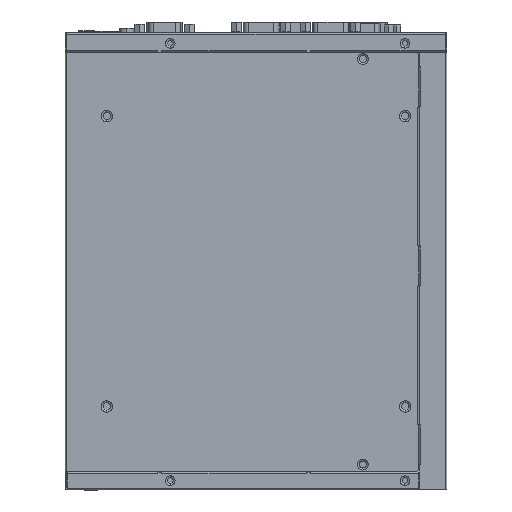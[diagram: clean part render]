
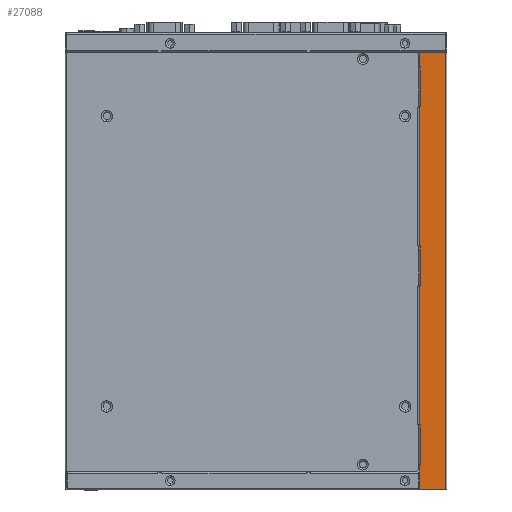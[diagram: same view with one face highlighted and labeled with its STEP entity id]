
A CAD part, front view. The second image highlights one B-rep face of the part: STEP entity #27088.
In plain terms, the highlighted planar face has unit normal (0, -1, 0).
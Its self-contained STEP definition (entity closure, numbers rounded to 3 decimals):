
#732 = CARTESIAN_POINT ( 'NONE',  ( 173., -32.35, -35.16 ) ) ;
#1957 = CARTESIAN_POINT ( 'NONE',  ( 173., -32.35, -227.66 ) ) ;
#2602 = EDGE_CURVE ( 'NONE', #48634, #61095, #22299, .T. ) ;
#3685 = CARTESIAN_POINT ( 'NONE',  ( 173., -32.35, -227.66 ) ) ;
#3712 = DIRECTION ( 'NONE',  ( 0., -1., 0. ) ) ;
#4452 = EDGE_CURVE ( 'NONE', #82041, #87753, #63120, .T. ) ;
#4977 = VERTEX_POINT ( 'NONE', #104557 ) ;
#7463 = EDGE_CURVE ( 'NONE', #135425, #12839, #136927, .T. ) ;
#10437 = VECTOR ( 'NONE', #38597, 1000. ) ;
#10545 = DIRECTION ( 'NONE',  ( -1., 0., 0. ) ) ;
#10933 = DIRECTION ( 'NONE',  ( 1., 0., 0. ) ) ;
#11315 = CARTESIAN_POINT ( 'NONE',  ( 173., -32.35, -195.16 ) ) ;
#11584 = DIRECTION ( 'NONE',  ( 0., 0., 1. ) ) ;
#12839 = VERTEX_POINT ( 'NONE', #97250 ) ;
#12980 = CARTESIAN_POINT ( 'NONE',  ( 173., -32.35, -215.16 ) ) ;
#14323 = ORIENTED_EDGE ( 'NONE', *, *, #42446, .T. ) ;
#16334 = VERTEX_POINT ( 'NONE', #110651 ) ;
#17010 = CARTESIAN_POINT ( 'NONE',  ( 186.2, -32.35, -227.66 ) ) ;
#17096 = LINE ( 'NONE', #133251, #10437 ) ;
#18270 = LINE ( 'NONE', #21516, #99227 ) ;
#21516 = CARTESIAN_POINT ( 'NONE',  ( 173., -32.35, -227.66 ) ) ;
#21533 = ORIENTED_EDGE ( 'NONE', *, *, #77012, .T. ) ;
#22299 = LINE ( 'NONE', #23139, #75149 ) ;
#23100 = AXIS2_PLACEMENT_3D ( 'NONE', #3685, #56768, #130613 ) ;
#23139 = CARTESIAN_POINT ( 'NONE',  ( 173., -32.35, -227.66 ) ) ;
#23855 = CARTESIAN_POINT ( 'NONE',  ( 173., -32.35, -195.16 ) ) ;
#24868 = VECTOR ( 'NONE', #99953, 1000. ) ;
#24905 = VERTEX_POINT ( 'NONE', #12980 ) ;
#27088 = ADVANCED_FACE ( 'NONE', ( #73925 ), #46149, .T. ) ;
#28170 = ORIENTED_EDGE ( 'NONE', *, *, #78824, .T. ) ;
#28822 = ORIENTED_EDGE ( 'NONE', *, *, #73159, .F. ) ;
#31268 = DIRECTION ( 'NONE',  ( 0., -1., 0. ) ) ;
#31300 = CARTESIAN_POINT ( 'NONE',  ( 173., -32.35, -215.16 ) ) ;
#32444 = EDGE_CURVE ( 'NONE', #4977, #24905, #102459, .T. ) ;
#33634 = ORIENTED_EDGE ( 'NONE', *, *, #4452, .T. ) ;
#38597 = DIRECTION ( 'NONE',  ( 0., 0., 1. ) ) ;
#38807 = ORIENTED_EDGE ( 'NONE', *, *, #103959, .T. ) ;
#38943 = CARTESIAN_POINT ( 'NONE',  ( 173.8, -32.35, 0. ) ) ;
#40033 = CARTESIAN_POINT ( 'NONE',  ( 173., -32.35, -15.16 ) ) ;
#40173 = VECTOR ( 'NONE', #95389, 1000. ) ;
#41190 = DIRECTION ( 'NONE',  ( 0., 0., 1. ) ) ;
#42446 = EDGE_CURVE ( 'NONE', #128997, #16334, #44782, .T. ) ;
#44782 = LINE ( 'NONE', #23855, #97687 ) ;
#45093 = DIRECTION ( 'NONE',  ( 1., 0., 0. ) ) ;
#45238 = VECTOR ( 'NONE', #11584, 1000. ) ;
#46149 = PLANE ( 'NONE',  #23100 ) ;
#46825 = CARTESIAN_POINT ( 'NONE',  ( 173.8, -32.35, -215.16 ) ) ;
#48634 = VERTEX_POINT ( 'NONE', #124990 ) ;
#49437 = ORIENTED_EDGE ( 'NONE', *, *, #2602, .F. ) ;
#49608 = DIRECTION ( 'NONE',  ( 0., 0., 1. ) ) ;
#50297 = VECTOR ( 'NONE', #108963, 1000. ) ;
#50465 = VECTOR ( 'NONE', #49608, 1000. ) ;
#50672 = CARTESIAN_POINT ( 'NONE',  ( 173., -32.35, -7.86 ) ) ;
#51710 = LINE ( 'NONE', #87702, #50297 ) ;
#52547 = CARTESIAN_POINT ( 'NONE',  ( 173.8, -32.35, -125.16 ) ) ;
#52698 = VERTEX_POINT ( 'NONE', #103018 ) ;
#53570 = CARTESIAN_POINT ( 'NONE',  ( 173., -32.35, -227.66 ) ) ;
#55862 = LINE ( 'NONE', #50672, #108783 ) ;
#56768 = DIRECTION ( 'NONE',  ( 0., -1., 0. ) ) ;
#56871 = CARTESIAN_POINT ( 'NONE',  ( 174., -32.35, -227.66 ) ) ;
#58937 = CARTESIAN_POINT ( 'NONE',  ( 173., -32.35, -125.16 ) ) ;
#61095 = VERTEX_POINT ( 'NONE', #80068 ) ;
#61098 = DIRECTION ( 'NONE',  ( 0., 0., 1. ) ) ;
#62078 = EDGE_CURVE ( 'NONE', #48634, #104929, #51710, .T. ) ;
#63120 = CIRCLE ( 'NONE', #94489, 1. ) ;
#63767 = EDGE_CURVE ( 'NONE', #128997, #52698, #83764, .T. ) ;
#63901 = ORIENTED_EDGE ( 'NONE', *, *, #80334, .F. ) ;
#65448 = VERTEX_POINT ( 'NONE', #56871 ) ;
#66512 = EDGE_CURVE ( 'NONE', #135861, #24905, #74728, .T. ) ;
#66969 = CARTESIAN_POINT ( 'NONE',  ( 174., -32.35, -226.66 ) ) ;
#67808 = ORIENTED_EDGE ( 'NONE', *, *, #66512, .T. ) ;
#69557 = DIRECTION ( 'NONE',  ( -1., 0., 0. ) ) ;
#69972 = VECTOR ( 'NONE', #123400, 1000. ) ;
#70405 = CARTESIAN_POINT ( 'NONE',  ( 186.2, -32.35, -227.66 ) ) ;
#73159 = EDGE_CURVE ( 'NONE', #135861, #16334, #134674, .T. ) ;
#73917 = LINE ( 'NONE', #58937, #126829 ) ;
#73925 = FACE_OUTER_BOUND ( 'NONE', #115619, .T. ) ;
#74259 = VECTOR ( 'NONE', #61098, 1000. ) ;
#74728 = LINE ( 'NONE', #31300, #124355 ) ;
#75149 = VECTOR ( 'NONE', #41190, 1000. ) ;
#77012 = EDGE_CURVE ( 'NONE', #65448, #135425, #18270, .T. ) ;
#77295 = AXIS2_PLACEMENT_3D ( 'NONE', #66969, #3712, #77559 ) ;
#77559 = DIRECTION ( 'NONE',  ( 0., 0., -1. ) ) ;
#77914 = ORIENTED_EDGE ( 'NONE', *, *, #128797, .F. ) ;
#78824 = EDGE_CURVE ( 'NONE', #4977, #65448, #93630, .T. ) ;
#79934 = LINE ( 'NONE', #53570, #45238 ) ;
#80068 = CARTESIAN_POINT ( 'NONE',  ( 173., -32.35, -35.16 ) ) ;
#80334 = EDGE_CURVE ( 'NONE', #123249, #87753, #79934, .T. ) ;
#80999 = DIRECTION ( 'NONE',  ( 0., 0., 1. ) ) ;
#82041 = VERTEX_POINT ( 'NONE', #83686 ) ;
#83224 = EDGE_CURVE ( 'NONE', #123249, #109193, #109162, .T. ) ;
#83686 = CARTESIAN_POINT ( 'NONE',  ( 174., -32.35, -7.86 ) ) ;
#83764 = LINE ( 'NONE', #1957, #130001 ) ;
#87442 = VECTOR ( 'NONE', #80999, 1000. ) ;
#87702 = CARTESIAN_POINT ( 'NONE',  ( 173., -32.35, -105.16 ) ) ;
#87753 = VERTEX_POINT ( 'NONE', #88344 ) ;
#87926 = ORIENTED_EDGE ( 'NONE', *, *, #62078, .T. ) ;
#88194 = ORIENTED_EDGE ( 'NONE', *, *, #32444, .F. ) ;
#88344 = CARTESIAN_POINT ( 'NONE',  ( 173., -32.35, -8.86 ) ) ;
#89231 = ORIENTED_EDGE ( 'NONE', *, *, #7463, .T. ) ;
#89313 = CARTESIAN_POINT ( 'NONE',  ( 173., -32.35, -15.16 ) ) ;
#92655 = CARTESIAN_POINT ( 'NONE',  ( 173.8, -32.35, -15.16 ) ) ;
#92681 = DIRECTION ( 'NONE',  ( 1., 0., 0. ) ) ;
#93119 = LINE ( 'NONE', #732, #40173 ) ;
#93630 = CIRCLE ( 'NONE', #77295, 1. ) ;
#94489 = AXIS2_PLACEMENT_3D ( 'NONE', #94561, #31268, #105169 ) ;
#94561 = CARTESIAN_POINT ( 'NONE',  ( 174., -32.35, -8.86 ) ) ;
#95389 = DIRECTION ( 'NONE',  ( -1., 0., 0. ) ) ;
#97250 = CARTESIAN_POINT ( 'NONE',  ( 186.2, -32.35, -7.86 ) ) ;
#97687 = VECTOR ( 'NONE', #45093, 1000. ) ;
#98390 = VERTEX_POINT ( 'NONE', #52547 ) ;
#99227 = VECTOR ( 'NONE', #10933, 1000. ) ;
#99518 = VERTEX_POINT ( 'NONE', #106279 ) ;
#99953 = DIRECTION ( 'NONE',  ( 1., 0., 0. ) ) ;
#100286 = CARTESIAN_POINT ( 'NONE',  ( 173.8, -32.35, -105.16 ) ) ;
#100714 = EDGE_CURVE ( 'NONE', #99518, #61095, #93119, .T. ) ;
#102459 = LINE ( 'NONE', #134988, #74259 ) ;
#103018 = CARTESIAN_POINT ( 'NONE',  ( 173., -32.35, -125.16 ) ) ;
#103959 = EDGE_CURVE ( 'NONE', #98390, #52698, #73917, .T. ) ;
#104557 = CARTESIAN_POINT ( 'NONE',  ( 173., -32.35, -226.66 ) ) ;
#104929 = VERTEX_POINT ( 'NONE', #100286 ) ;
#104939 = ORIENTED_EDGE ( 'NONE', *, *, #131806, .F. ) ;
#105169 = DIRECTION ( 'NONE',  ( 0., 0., -1. ) ) ;
#106211 = ORIENTED_EDGE ( 'NONE', *, *, #100714, .T. ) ;
#106279 = CARTESIAN_POINT ( 'NONE',  ( 173.8, -32.35, -35.16 ) ) ;
#107704 = DIRECTION ( 'NONE',  ( 0., 0., 1. ) ) ;
#108129 = ORIENTED_EDGE ( 'NONE', *, *, #83224, .T. ) ;
#108783 = VECTOR ( 'NONE', #92681, 1000. ) ;
#108963 = DIRECTION ( 'NONE',  ( 1., 0., 0. ) ) ;
#109162 = LINE ( 'NONE', #89313, #24868 ) ;
#109193 = VERTEX_POINT ( 'NONE', #92655 ) ;
#110651 = CARTESIAN_POINT ( 'NONE',  ( 173.8, -32.35, -195.16 ) ) ;
#112814 = CARTESIAN_POINT ( 'NONE',  ( 173.8, -32.35, 0. ) ) ;
#115619 = EDGE_LOOP ( 'NONE', ( #104939, #33634, #63901, #108129, #77914, #106211, #49437, #87926, #122116, #38807, #126947, #14323, #28822, #67808, #88194, #28170, #21533, #89231 ) ) ;
#117515 = EDGE_CURVE ( 'NONE', #98390, #104929, #129452, .T. ) ;
#122116 = ORIENTED_EDGE ( 'NONE', *, *, #117515, .F. ) ;
#123249 = VERTEX_POINT ( 'NONE', #40033 ) ;
#123400 = DIRECTION ( 'NONE',  ( 0., 0., 1. ) ) ;
#124355 = VECTOR ( 'NONE', #10545, 1000. ) ;
#124990 = CARTESIAN_POINT ( 'NONE',  ( 173., -32.35, -105.16 ) ) ;
#126829 = VECTOR ( 'NONE', #69557, 1000. ) ;
#126947 = ORIENTED_EDGE ( 'NONE', *, *, #63767, .F. ) ;
#128797 = EDGE_CURVE ( 'NONE', #99518, #109193, #17096, .T. ) ;
#128997 = VERTEX_POINT ( 'NONE', #11315 ) ;
#129452 = LINE ( 'NONE', #112814, #69972 ) ;
#130001 = VECTOR ( 'NONE', #107704, 1000. ) ;
#130613 = DIRECTION ( 'NONE',  ( 0., 0., -1. ) ) ;
#131806 = EDGE_CURVE ( 'NONE', #82041, #12839, #55862, .T. ) ;
#133251 = CARTESIAN_POINT ( 'NONE',  ( 173.8, -32.35, 0. ) ) ;
#134674 = LINE ( 'NONE', #38943, #50465 ) ;
#134988 = CARTESIAN_POINT ( 'NONE',  ( 173., -32.35, -227.66 ) ) ;
#135425 = VERTEX_POINT ( 'NONE', #17010 ) ;
#135861 = VERTEX_POINT ( 'NONE', #46825 ) ;
#136927 = LINE ( 'NONE', #70405, #87442 ) ;
